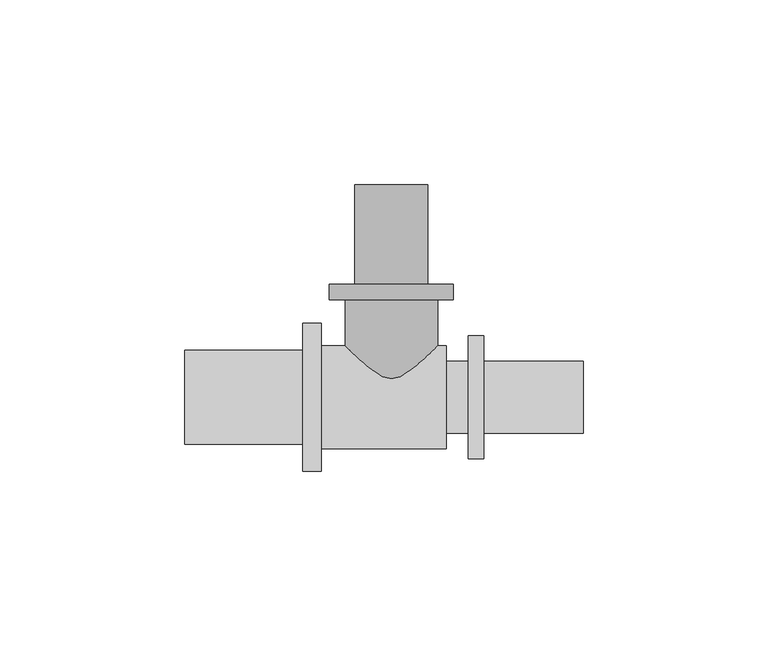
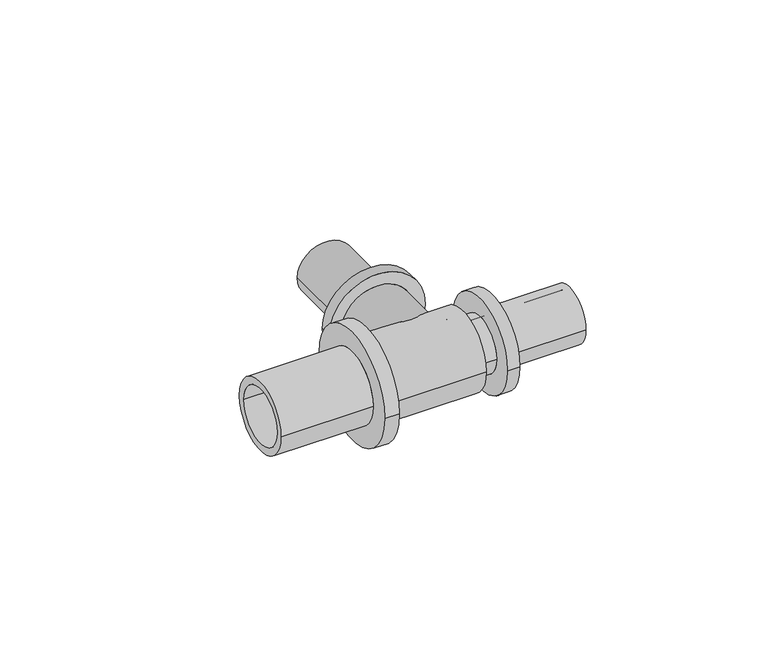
"""IFC4 building model written with IfcOpenShell, lengths in millimetres: pipe fitting geometry, RAUTITAN_T-piece_LX : RTI LX T DN."""

from ifc_helpers import new_model, si_unit, frame, origin, place, context, project, spatial, polyline, circle_curve, source, transform, mapped, element, save
from ifc_brep_helpers import plane_surface, cylinder_surface, revolved_surface, advanced_brep


def pipe_fitting_eedfb6d1(model_context):
    return source(origin(), model_context, "Body", "AdvancedBrep", [
        advanced_brep(
        [(-12.5, 26.4, 0.0), (12.5, 26.4, 0.0), (12.5, 0.0, 0.0), (-12.5, 0.0, 0.0), (-16.8, 30.6, 0.0), (16.8, 30.6, 0.0), (16.8, 26.4, 0.0), (-16.8, 26.4, 0.0), (-9.9, 57.6, 0.0), (9.9, 57.6, 0.0), (9.9, 30.6, 0.0), (-9.9, 30.6, 0.0), (-7.6, 0.0, 0.0), (7.6, 0.0, 0.0), (7.6, 57.6, 0.0), (-7.6, 57.6, 0.0)],
        [
            (0, 1, circle_curve(frame((0.0, 26.4, 0.0), z_axis=(0.0, -1.0, 0.0), x_axis=(1.0, 0.0, 0.0)), 12.5)),
            (1, 2),
            (2, 3, circle_curve(frame((0.0, 0.0, 0.0), z_axis=(0.0, 1.0, 0.0), x_axis=(1.0, 0.0, 0.0)), 12.5)),
            (3, 0),
            (4, 5, circle_curve(frame((0.0, 30.6, 0.0), z_axis=(0.0, -1.0, 0.0), x_axis=(1.0, 0.0, 0.0)), 16.8)),
            (5, 6),
            (6, 7, circle_curve(frame((0.0, 26.4, 0.0), z_axis=(0.0, 1.0, 0.0), x_axis=(1.0, 0.0, 0.0)), 16.8)),
            (7, 4),
            (8, 9, circle_curve(frame((0.0, 57.6, 0.0), z_axis=(0.0, -1.0, 0.0), x_axis=(1.0, 0.0, 0.0)), 9.9)),
            (9, 10),
            (10, 11, circle_curve(frame((0.0, 30.6, 0.0), z_axis=(0.0, 1.0, 0.0), x_axis=(1.0, 0.0, 0.0)), 9.9)),
            (11, 8),
            (12, 13, circle_curve(frame((0.0, 0.0, 0.0), z_axis=(0.0, -1.0, 0.0), x_axis=(1.0, 0.0, 0.0)), 7.6)),
            (13, 14),
            (14, 15, circle_curve(frame((0.0, 57.6, 0.0), z_axis=(0.0, 1.0, 0.0), x_axis=(1.0, 0.0, 0.0)), 7.6)),
            (15, 12),
            (1, 0, circle_curve(frame((0.0, 26.4, 0.0), z_axis=(0.0, -1.0, 0.0), x_axis=(-1.0, 0.0, 0.0)), 12.5)),
            (3, 2, circle_curve(frame((0.0, 0.0, 0.0), z_axis=(0.0, 1.0, 0.0), x_axis=(-1.0, 0.0, 0.0)), 12.5)),
            (6, 7, circle_curve(frame((0.0, 26.4, 0.0), z_axis=(0.0, -1.0, 0.0), x_axis=(-1.0, 0.0, 0.0)), 16.8)),
            (5, 4, circle_curve(frame((0.0, 30.6, 0.0), z_axis=(0.0, -1.0, 0.0), x_axis=(-1.0, 0.0, 0.0)), 16.8)),
            (10, 11, circle_curve(frame((0.0, 30.6, 0.0), z_axis=(0.0, -1.0, 0.0), x_axis=(-1.0, 0.0, 0.0)), 9.9)),
            (9, 8, circle_curve(frame((0.0, 57.6, 0.0), z_axis=(0.0, -1.0, 0.0), x_axis=(-1.0, 0.0, 0.0)), 9.9)),
            (14, 15, circle_curve(frame((0.0, 57.6, 0.0), z_axis=(0.0, -1.0, 0.0), x_axis=(-1.0, 0.0, 0.0)), 7.6)),
            (13, 12, circle_curve(frame((0.0, 0.0, 0.0), z_axis=(0.0, -1.0, 0.0), x_axis=(-1.0, 0.0, 0.0)), 7.6)),
        ],
        [
            cylinder_surface(frame((0.0, 0.0, 0.0), z_axis=(0.0, 1.0, 0.0), x_axis=(1.0, 0.0, 0.0)), 12.5),
            cylinder_surface(frame((0.0, 0.0, 0.0), z_axis=(0.0, 1.0, 0.0), x_axis=(1.0, 0.0, 0.0)), 16.8),
            cylinder_surface(frame((0.0, 0.0, 0.0), z_axis=(0.0, 1.0, 0.0), x_axis=(1.0, 0.0, 0.0)), 9.9),
            revolved_surface(polyline([(7.6, 57.6, 0.0), (7.6, 0.0, 0.0)]), (0.0, 0.0, 0.0), (0.0, 1.0, 0.0)),
            cylinder_surface(frame((0.0, 0.0, 0.0), z_axis=(0.0, 1.0, 0.0), x_axis=(-1.0, 0.0, 0.0)), 12.5),
            plane_surface(frame((0.0, 26.4, 0.0), z_axis=(0.0, -1.0, 0.0), x_axis=(-1.0, 0.0, 0.0))),
            cylinder_surface(frame((0.0, 0.0, 0.0), z_axis=(0.0, 1.0, 0.0), x_axis=(-1.0, 0.0, 0.0)), 16.8),
            plane_surface(frame((0.0, 30.6, 0.0), z_axis=(0.0, 1.0, 0.0), x_axis=(-1.0, 0.0, 0.0))),
            cylinder_surface(frame((0.0, 0.0, 0.0), z_axis=(0.0, 1.0, 0.0), x_axis=(-1.0, 0.0, 0.0)), 9.9),
            plane_surface(frame((0.0, 57.6, 0.0), z_axis=(0.0, 1.0, 0.0), x_axis=(-1.0, 0.0, 0.0))),
            revolved_surface(polyline([(-7.6, 57.6, 0.0), (-7.6, 0.0, 0.0)]), (0.0, 0.0, 0.0), (0.0, 1.0, 0.0)),
            plane_surface(frame((0.0, 0.0, 0.0), z_axis=(0.0, -1.0, 0.0), x_axis=(-1.0, 0.0, 0.0))),
        ],
        [
            (0, [[1, 2, 3, 4]]),
            (1, [[5, 6, 7, 8]]),
            (2, [[9, 10, 11, 12]]),
            (3, [[13, 14, 15, 16]]),
            (4, [[17, -4, 18, -2]]),
            (5, [[19, -7], [-17, -1]]),
            (6, [[20, -8, -19, -6]]),
            (7, [[-20, -5], [21, -11]]),
            (8, [[22, -12, -21, -10]]),
            (9, [[-22, -9], [23, -15]]),
            (10, [[24, -16, -23, -14]]),
            (11, [[-18, -3], [-24, -13]]),
        ],
    ),
        advanced_brep(
        [(-56.0, 10.0, 0.0), (-56.0, -10.0, 0.0), (12.5, -10.0, 0.0), (12.5, 10.0, 0.0), (14.8, 14.0, 0.0), (14.8, -14.0, 0.0), (-19.0, -14.0, 0.0), (-19.0, 14.0, 0.0), (-19.0, 20.0, 0.0), (-19.0, -20.0, 0.0), (-24.0, -20.0, 0.0), (-24.0, 20.0, 0.0), (-24.0, 12.7, 0.0), (-24.0, -12.7, 0.0), (-56.0, -12.7, 0.0), (-56.0, 12.7, 0.0), (12.5, 7.5, 0.0), (12.5, -7.5, 0.0), (52.0, -7.5, 0.0), (52.0, 7.5, 0.0), (52.0, 9.8, 0.0), (52.0, -9.8, 0.0), (25.0, -9.8, 0.0), (25.0, 9.8, 0.0), (25.0, 16.7, 0.0), (25.0, -16.7, 0.0), (20.8, -16.7, 0.0), (20.8, 16.7, 0.0), (20.8, 9.8, 0.0), (20.8, -9.8, 0.0), (14.8, -9.8, 0.0), (14.8, 9.8, 0.0)],
        [
            (0, 1, circle_curve(frame((-56.0, 0.0, 0.0), z_axis=(-1.0, 0.0, 0.0), x_axis=(0.0, -1.0, 0.0)), 10.0)),
            (1, 2),
            (2, 3, circle_curve(frame((12.5, 0.0, 0.0), z_axis=(1.0, 0.0, 0.0), x_axis=(0.0, -1.0, 0.0)), 10.0)),
            (3, 0),
            (4, 5, circle_curve(frame((14.8, 0.0, 0.0), z_axis=(-1.0, 0.0, 0.0), x_axis=(0.0, -1.0, 0.0)), 14.0)),
            (5, 6),
            (6, 7, circle_curve(frame((-19.0, 0.0, 0.0), z_axis=(1.0, 0.0, 0.0), x_axis=(0.0, -1.0, 0.0)), 14.0)),
            (7, 4),
            (1, 0, circle_curve(frame((-56.0, 0.0, 0.0), z_axis=(-1.0, 0.0, 0.0), x_axis=(0.0, 1.0, 0.0)), 10.0)),
            (3, 2, circle_curve(frame((12.5, 0.0, 0.0), z_axis=(1.0, 0.0, 0.0), x_axis=(0.0, 1.0, 0.0)), 10.0)),
            (5, 4, circle_curve(frame((14.8, 0.0, 0.0), z_axis=(-1.0, 0.0, 0.0), x_axis=(0.0, 1.0, 0.0)), 14.0)),
            (7, 6, circle_curve(frame((-19.0, 0.0, 0.0), z_axis=(1.0, 0.0, 0.0), x_axis=(0.0, 1.0, 0.0)), 14.0)),
            (8, 9, circle_curve(frame((-19.0, 0.0, 0.0), z_axis=(-1.0, 0.0, 0.0), x_axis=(0.0, -1.0, 0.0)), 20.0)),
            (9, 10),
            (10, 11, circle_curve(frame((-24.0, 0.0, 0.0), z_axis=(1.0, 0.0, 0.0), x_axis=(0.0, -1.0, 0.0)), 20.0)),
            (11, 8),
            (12, 13, circle_curve(frame((-24.0, 0.0, 0.0), z_axis=(-1.0, 0.0, 0.0), x_axis=(0.0, -1.0, 0.0)), 12.7)),
            (13, 14),
            (14, 15, circle_curve(frame((-56.0, 0.0, 0.0), z_axis=(1.0, 0.0, 0.0), x_axis=(0.0, -1.0, 0.0)), 12.7)),
            (15, 12),
            (8, 9, circle_curve(frame((-19.0, 0.0, 0.0), z_axis=(1.0, 0.0, 0.0), x_axis=(0.0, 1.0, 0.0)), 20.0)),
            (11, 10, circle_curve(frame((-24.0, 0.0, 0.0), z_axis=(1.0, 0.0, 0.0), x_axis=(0.0, 1.0, 0.0)), 20.0)),
            (12, 13, circle_curve(frame((-24.0, 0.0, 0.0), z_axis=(1.0, 0.0, 0.0), x_axis=(0.0, 1.0, 0.0)), 12.7)),
            (15, 14, circle_curve(frame((-56.0, 0.0, 0.0), z_axis=(1.0, 0.0, 0.0), x_axis=(0.0, 1.0, 0.0)), 12.7)),
            (16, 17, circle_curve(frame((12.5, 0.0, 0.0), z_axis=(-1.0, 0.0, 0.0), x_axis=(0.0, -1.0, 0.0)), 7.5)),
            (17, 18),
            (18, 19, circle_curve(frame((52.0, 0.0, 0.0), z_axis=(1.0, 0.0, 0.0), x_axis=(0.0, -1.0, 0.0)), 7.5)),
            (19, 16),
            (20, 21, circle_curve(frame((52.0, 0.0, 0.0), z_axis=(-1.0, 0.0, 0.0), x_axis=(0.0, -1.0, 0.0)), 9.8)),
            (21, 22),
            (22, 23, circle_curve(frame((25.0, 0.0, 0.0), z_axis=(1.0, 0.0, 0.0), x_axis=(0.0, -1.0, 0.0)), 9.8)),
            (23, 20),
            (24, 25, circle_curve(frame((25.0, 0.0, 0.0), z_axis=(-1.0, 0.0, 0.0), x_axis=(0.0, -1.0, 0.0)), 16.7)),
            (25, 26),
            (26, 27, circle_curve(frame((20.8, 0.0, 0.0), z_axis=(1.0, 0.0, 0.0), x_axis=(0.0, -1.0, 0.0)), 16.7)),
            (27, 24),
            (28, 29, circle_curve(frame((20.8, 0.0, 0.0), z_axis=(-1.0, 0.0, 0.0), x_axis=(0.0, -1.0, 0.0)), 9.8)),
            (29, 30),
            (30, 31, circle_curve(frame((14.8, 0.0, 0.0), z_axis=(1.0, 0.0, 0.0), x_axis=(0.0, -1.0, 0.0)), 9.8)),
            (31, 28),
            (16, 17, circle_curve(frame((12.5, 0.0, 0.0), z_axis=(1.0, 0.0, 0.0), x_axis=(0.0, 1.0, 0.0)), 7.5)),
            (19, 18, circle_curve(frame((52.0, 0.0, 0.0), z_axis=(1.0, 0.0, 0.0), x_axis=(0.0, 1.0, 0.0)), 7.5)),
            (20, 21, circle_curve(frame((52.0, 0.0, 0.0), z_axis=(1.0, 0.0, 0.0), x_axis=(0.0, 1.0, 0.0)), 9.8)),
            (23, 22, circle_curve(frame((25.0, 0.0, 0.0), z_axis=(1.0, 0.0, 0.0), x_axis=(0.0, 1.0, 0.0)), 9.8)),
            (24, 25, circle_curve(frame((25.0, 0.0, 0.0), z_axis=(1.0, 0.0, 0.0), x_axis=(0.0, 1.0, 0.0)), 16.7)),
            (27, 26, circle_curve(frame((20.8, 0.0, 0.0), z_axis=(1.0, 0.0, 0.0), x_axis=(0.0, 1.0, 0.0)), 16.7)),
            (28, 29, circle_curve(frame((20.8, 0.0, 0.0), z_axis=(1.0, 0.0, 0.0), x_axis=(0.0, 1.0, 0.0)), 9.8)),
            (31, 30, circle_curve(frame((14.8, 0.0, 0.0), z_axis=(1.0, 0.0, 0.0), x_axis=(0.0, 1.0, 0.0)), 9.8)),
        ],
        [
            revolved_surface(polyline([(12.5, -10.0, 0.0), (-56.0, -10.0, 0.0)]), (0.0, 0.0, 0.0), (1.0, 0.0, 0.0)),
            cylinder_surface(frame((0.0, 0.0, 0.0), z_axis=(1.0, 0.0, 0.0), x_axis=(0.0, -1.0, 0.0)), 14.0),
            revolved_surface(polyline([(12.5, 10.0, 0.0), (-56.0, 10.0, 0.0)]), (0.0, 0.0, 0.0), (1.0, 0.0, 0.0)),
            cylinder_surface(frame((0.0, 0.0, 0.0), z_axis=(1.0, 0.0, 0.0), x_axis=(0.0, 1.0, 0.0)), 14.0),
            cylinder_surface(frame((0.0, 0.0, 0.0), z_axis=(1.0, 0.0, 0.0), x_axis=(0.0, -1.0, 0.0)), 20.0),
            cylinder_surface(frame((0.0, 0.0, 0.0), z_axis=(1.0, 0.0, 0.0), x_axis=(0.0, -1.0, 0.0)), 12.7),
            plane_surface(frame((-19.0, 0.0, 0.0), z_axis=(1.0, 0.0, 0.0), x_axis=(0.0, 1.0, 0.0))),
            cylinder_surface(frame((0.0, 0.0, 0.0), z_axis=(1.0, 0.0, 0.0), x_axis=(0.0, 1.0, 0.0)), 20.0),
            plane_surface(frame((-24.0, 0.0, 0.0), z_axis=(-1.0, 0.0, 0.0), x_axis=(0.0, 1.0, 0.0))),
            cylinder_surface(frame((0.0, 0.0, 0.0), z_axis=(1.0, 0.0, 0.0), x_axis=(0.0, 1.0, 0.0)), 12.7),
            plane_surface(frame((-56.0, 0.0, 0.0), z_axis=(-1.0, 0.0, 0.0), x_axis=(0.0, 1.0, 0.0))),
            revolved_surface(polyline([(52.0, -7.5, 0.0), (12.5, -7.5, 0.0)]), (0.0, 0.0, 0.0), (1.0, 0.0, 0.0)),
            cylinder_surface(frame((0.0, 0.0, 0.0), z_axis=(1.0, 0.0, 0.0), x_axis=(0.0, -1.0, 0.0)), 9.8),
            cylinder_surface(frame((0.0, 0.0, 0.0), z_axis=(1.0, 0.0, 0.0), x_axis=(0.0, -1.0, 0.0)), 16.7),
            plane_surface(frame((12.5, 0.0, 0.0), z_axis=(-1.0, 0.0, 0.0), x_axis=(0.0, 1.0, 0.0))),
            revolved_surface(polyline([(52.0, 7.5, 0.0), (12.5, 7.5, 0.0)]), (0.0, 0.0, 0.0), (1.0, 0.0, 0.0)),
            plane_surface(frame((52.0, 0.0, 0.0), z_axis=(1.0, 0.0, 0.0), x_axis=(0.0, 1.0, 0.0))),
            cylinder_surface(frame((0.0, 0.0, 0.0), z_axis=(1.0, 0.0, 0.0), x_axis=(0.0, 1.0, 0.0)), 9.8),
            plane_surface(frame((25.0, 0.0, 0.0), z_axis=(1.0, 0.0, 0.0), x_axis=(0.0, 1.0, 0.0))),
            cylinder_surface(frame((0.0, 0.0, 0.0), z_axis=(1.0, 0.0, 0.0), x_axis=(0.0, 1.0, 0.0)), 16.7),
            plane_surface(frame((20.8, 0.0, 0.0), z_axis=(-1.0, 0.0, 0.0), x_axis=(0.0, 1.0, 0.0))),
            plane_surface(frame((14.8, 0.0, 0.0), z_axis=(1.0, 0.0, 0.0), x_axis=(0.0, 1.0, 0.0))),
        ],
        [
            (0, [[1, 2, 3, 4]]),
            (1, [[5, 6, 7, 8]]),
            (2, [[9, -4, 10, -2]]),
            (3, [[11, -8, 12, -6]]),
            (4, [[13, 14, 15, 16]]),
            (5, [[17, 18, 19, 20]]),
            (6, [[21, -13], [-12, -7]]),
            (7, [[-21, -16, 22, -14]]),
            (8, [[-22, -15], [23, -17]]),
            (9, [[-23, -20, 24, -18]]),
            (10, [[-24, -19], [-9, -1]]),
            (11, [[25, 26, 27, 28]]),
            (12, [[29, 30, 31, 32]]),
            (13, [[33, 34, 35, 36]]),
            (12, [[37, 38, 39, 40]]),
            (14, [[-10, -3], [41, -25]]),
            (15, [[-41, -28, 42, -26]]),
            (16, [[43, -29], [-42, -27]]),
            (17, [[-43, -32, 44, -30]]),
            (18, [[45, -33], [-44, -31]]),
            (19, [[-45, -36, 46, -34]]),
            (20, [[-46, -35], [47, -37]]),
            (17, [[-47, -40, 48, -38]]),
            (21, [[-11, -5], [-48, -39]]),
        ],
    ),
    ])


if __name__ == "__main__":
    model = new_model("IFC4")
    model_context = context("Model", 3, world=origin())
    ifc_project = project(units=[si_unit("LENGTHUNIT", "METRE", prefix="MILLI")], contexts=[model_context])
    site = spatial("IfcSite", under=ifc_project)
    building = spatial("IfcBuilding", under=site)
    placement = place(None, origin())
    pipe_fitting_shape = pipe_fitting_eedfb6d1(model_context)
    element("IfcPipeFitting", 1, ObjectType="RAUTITAN_T-piece_LX : RTI LX T DN", at=placement, inside=building, context=model_context, shape_type="MappedRepresentation", body=[
        mapped(pipe_fitting_shape, transform((0.0, 0.0, 0.0), x_axis=(1.0, 0.0, 0.0), y_axis=(0.0, 1.0, 0.0), z_axis=(0.0, 0.0, 1.0))),
    ])
    save(model, "model.ifc")
